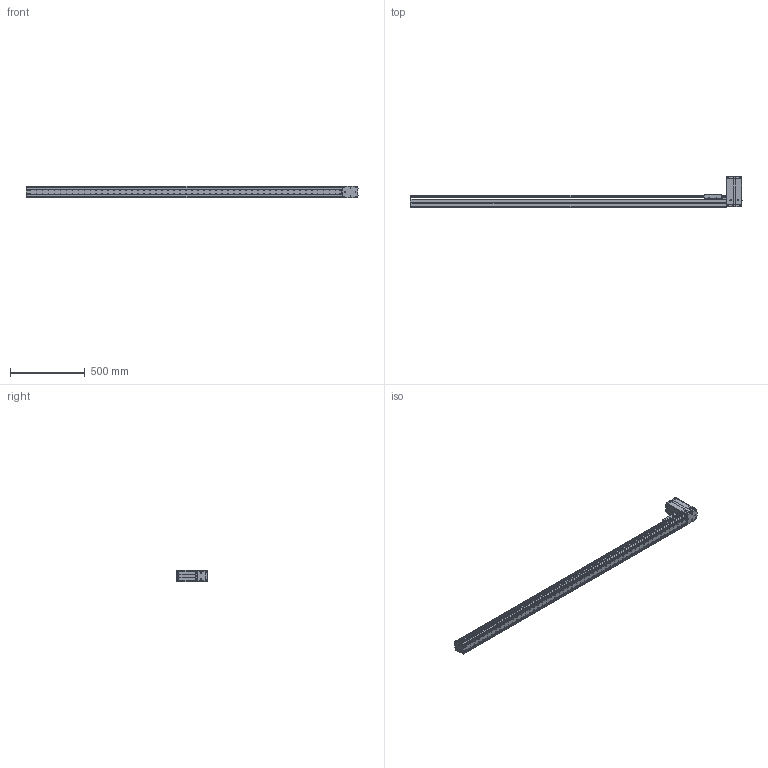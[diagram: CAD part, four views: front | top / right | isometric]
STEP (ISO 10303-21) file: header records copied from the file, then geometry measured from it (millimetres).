
FILE_DESCRIPTION((''),'2;1');
FILE_NAME('BE10_-BT-M_N-K0_IGS_PRT','2017-06-18T',(' '),(''),'PRO/ENGINEER BY PARAMETRIC TECHNOLOGY CORPORATION, 2015030','PRO/ENGINEER BY PARAMETRIC TECHNOLOGY CORPORATION, 2015030','');
FILE_SCHEMA(('CONFIG_CONTROL_DESIGN'));
Products named in the file (1): BE10_-BT-M_N-K0_IGS_PRT
Bounding box: 2220.8 x 204.72 x 78 mm (x, y, z)
Volume: 2878188.7 mm3; surface area: 2035056.1 mm2
Topology: 5 solids, 183 shells, 2394 faces, 6558 edges, 4377 vertices
Faces by surface type: cylinder 1152, plane 1079, cone 107, sphere 28, torus 25, bspline 3
Entity records: 78541 total; most frequent: CARTESIAN_POINT 16285, DIRECTION 13278, ORIENTED_EDGE 12276, EDGE_CURVE 6488, AXIS2_PLACEMENT_3D 4895, VERTEX_POINT 4373, VECTOR 3488, LINE 3488
